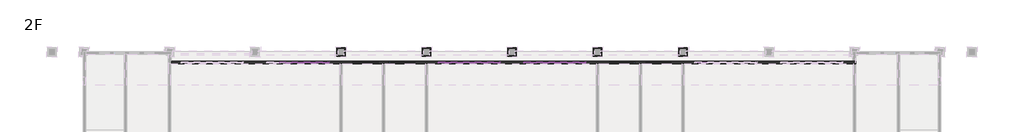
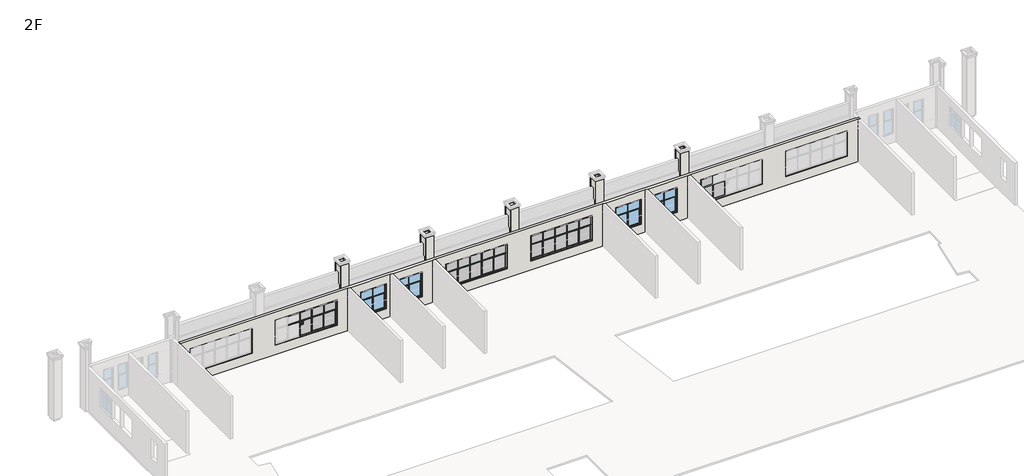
# One storey, part 6 of 16: 71 members, 23 plates, 21 walls, 4 windows.
"""IFC4 building model written with IfcOpenShell, lengths in millimetres."""

from ifc_helpers import new_model, si_unit, origin, place, context, project, spatial, faceted_brep, transform, mapped, element, save
from components import member_7564be38, member_1f4d75dd, member_0b7842ad, member_163d5e45, member_ffafc35e, member_2b011958, member_9c26cac3, member_6c42befd, member_a374fdad, plate_75e73fbb, plate_f4dba16c, plate_1cc4df2b, plate_4fa5932a, plate_00f9c624, plate_7c94d5a9, lc4_lc4_4954e093

model = new_model("IFC4")

# Units and contexts
model_context = context("Model", 3, world=origin())
ifc_project = project(units=[si_unit("LENGTHUNIT", "METRE", prefix="MILLI")], contexts=[model_context])

# Site, building, storey
site = spatial("IfcSite", under=ifc_project)
building = spatial("IfcBuilding", under=site)
storey = spatial("IfcBuildingStorey", under=building, Name="2F", Elevation=4200.0)

# Members
placement = place(None, origin())
member_shape = member_7564be38(model_context)
element("IfcMember", 1, ObjectType="矩形竖梃 : 教学楼 – 矩形竖梃 – 100x150mm", at=placement, inside=storey, context=model_context, shape_type="MappedRepresentation", body=[
    mapped(member_shape, transform((25899.9999995, 32210.0, 7600.0), x_axis=(0.0, 0.0, 1.0), y_axis=(0.0, -1.0, 0.0), z_axis=(1.0, 0.0, 0.0))),
])
element("IfcMember", 2, ObjectType="矩形竖梃 : 教学楼 – 矩形竖梃 – 100x150mm", at=placement, inside=storey, context=model_context, shape_type="MappedRepresentation", body=[
    mapped(member_shape, transform((41900.0000002, 32210.0, 7600.0), x_axis=(0.0, 0.0, 1.0), y_axis=(0.0, -1.0, 0.0), z_axis=(1.0, 0.0, 0.0))),
])
element("IfcMember", 3, ObjectType="矩形竖梃 : 教学楼 – 矩形竖梃 – 100x150mm", at=placement, inside=storey, context=model_context, shape_type="MappedRepresentation", body=[
    mapped(member_shape, transform((49899.9999995, 32210.0, 7600.0), x_axis=(0.0, 0.0, 1.0), y_axis=(0.0, -1.0, 0.0), z_axis=(1.0, 0.0, 0.0))),
])
element("IfcMember", 4, ObjectType="矩形竖梃 : 教学楼 – 矩形竖梃 – 100x150mm", at=placement, inside=storey, context=model_context, shape_type="MappedRepresentation", body=[
    mapped(member_shape, transform((36100.0000002, 32210.0, 5100.0), x_axis=(0.0, 0.0, -1.0), y_axis=(0.0, -1.0, 0.0), z_axis=(-1.0, 0.0, 0.0))),
])
element("IfcMember", 5, ObjectType="矩形竖梃 : 教学楼 – 矩形竖梃 – 100x150mm", at=placement, inside=storey, context=model_context, shape_type="MappedRepresentation", body=[
    mapped(member_shape, transform((44099.9999995, 32210.0, 5100.0), x_axis=(0.0, 0.0, -1.0), y_axis=(0.0, -1.0, 0.0), z_axis=(-1.0, 0.0, 0.0))),
])
element("IfcMember", 6, ObjectType="矩形竖梃 : 教学楼 – 矩形竖梃 – 100x150mm", at=placement, inside=storey, context=model_context, shape_type="MappedRepresentation", body=[
    mapped(member_shape, transform((60100.0000002, 32210.0, 5100.0), x_axis=(0.0, 0.0, -1.0), y_axis=(0.0, -1.0, 0.0), z_axis=(-1.0, 0.0, 0.0))),
])
member_2_shape = member_1f4d75dd(model_context)
element("IfcMember", 7, ObjectType="矩形竖梃 : 教学楼 – 矩形竖梃 – 50x150mm", at=placement, inside=storey, context=model_context, shape_type="MappedRepresentation", body=[
    mapped(member_2_shape, transform((22449.9999995, 32210.0, 5200.0), x_axis=(1.0, 0.0, 0.0), y_axis=(0.0, -1.0, 0.0), z_axis=(0.0, 0.0, -1.0))),
])
element("IfcMember", 8, ObjectType="矩形竖梃 : 教学楼 – 矩形竖梃 – 50x150mm", at=placement, inside=storey, context=model_context, shape_type="MappedRepresentation", body=[
    mapped(member_2_shape, transform((23549.9999995, 32210.0, 5200.0), x_axis=(1.0, 0.0, 0.0), y_axis=(0.0, -1.0, 0.0), z_axis=(0.0, 0.0, -1.0))),
])
element("IfcMember", 9, ObjectType="矩形竖梃 : 教学楼 – 矩形竖梃 – 50x150mm", at=placement, inside=storey, context=model_context, shape_type="MappedRepresentation", body=[
    mapped(member_2_shape, transform((38450.0000002, 32210.0, 5200.0), x_axis=(1.0, 0.0, 0.0), y_axis=(0.0, -1.0, 0.0), z_axis=(0.0, 0.0, -1.0))),
])
element("IfcMember", 10, ObjectType="矩形竖梃 : 教学楼 – 矩形竖梃 – 50x150mm", at=placement, inside=storey, context=model_context, shape_type="MappedRepresentation", body=[
    mapped(member_2_shape, transform((39550.0000002, 32210.0, 5200.0), x_axis=(1.0, 0.0, 0.0), y_axis=(0.0, -1.0, 0.0), z_axis=(0.0, 0.0, -1.0))),
])
element("IfcMember", 11, ObjectType="矩形竖梃 : 教学楼 – 矩形竖梃 – 50x150mm", at=placement, inside=storey, context=model_context, shape_type="MappedRepresentation", body=[
    mapped(member_2_shape, transform((46449.9999995, 32210.0, 5200.0), x_axis=(1.0, 0.0, 0.0), y_axis=(0.0, -1.0, 0.0), z_axis=(0.0, 0.0, -1.0))),
])
element("IfcMember", 12, ObjectType="矩形竖梃 : 教学楼 – 矩形竖梃 – 50x150mm", at=placement, inside=storey, context=model_context, shape_type="MappedRepresentation", body=[
    mapped(member_2_shape, transform((47549.9999995, 32210.0, 5200.0), x_axis=(1.0, 0.0, 0.0), y_axis=(0.0, -1.0, 0.0), z_axis=(0.0, 0.0, -1.0))),
])
member_3_shape = member_0b7842ad(model_context)
element("IfcMember", 13, ObjectType="矩形竖梃 : 教学楼 – 矩形竖梃 – 50x150mm", at=placement, inside=storey, context=model_context, shape_type="MappedRepresentation", body=[
    mapped(member_3_shape, transform((37300.0000002, 32210.0, 6650.0), x_axis=(0.0, 0.0, 1.0), y_axis=(0.0, -1.0, 0.0), z_axis=(1.0, 0.0, 0.0))),
])
element("IfcMember", 14, ObjectType="矩形竖梃 : 教学楼 – 矩形竖梃 – 50x150mm", at=placement, inside=storey, context=model_context, shape_type="MappedRepresentation", body=[
    mapped(member_3_shape, transform((45299.9999995, 32210.0, 6650.0), x_axis=(0.0, 0.0, 1.0), y_axis=(0.0, -1.0, 0.0), z_axis=(1.0, 0.0, 0.0))),
])
member_4_shape = member_163d5e45(model_context)
element("IfcMember", 15, ObjectType="矩形竖梃 : 教学楼 – 矩形竖梃 – 50x150mm", at=placement, inside=storey, context=model_context, shape_type="MappedRepresentation", body=[
    mapped(member_4_shape, transform((22449.9999995, 32210.0, 6650.0), x_axis=(0.0, 0.0, 1.0), y_axis=(0.0, -1.0, 0.0), z_axis=(1.0, 0.0, 0.0))),
])
element("IfcMember", 16, ObjectType="矩形竖梃 : 教学楼 – 矩形竖梃 – 50x150mm", at=placement, inside=storey, context=model_context, shape_type="MappedRepresentation", body=[
    mapped(member_4_shape, transform((24699.9999995, 32210.0, 6650.0), x_axis=(0.0, 0.0, 1.0), y_axis=(0.0, -1.0, 0.0), z_axis=(1.0, 0.0, 0.0))),
])
element("IfcMember", 17, ObjectType="矩形竖梃 : 教学楼 – 矩形竖梃 – 50x150mm", at=placement, inside=storey, context=model_context, shape_type="MappedRepresentation", body=[
    mapped(member_4_shape, transform((38450.0000002, 32210.0, 6650.0), x_axis=(0.0, 0.0, 1.0), y_axis=(0.0, -1.0, 0.0), z_axis=(1.0, 0.0, 0.0))),
])
element("IfcMember", 18, ObjectType="矩形竖梃 : 教学楼 – 矩形竖梃 – 50x150mm", at=placement, inside=storey, context=model_context, shape_type="MappedRepresentation", body=[
    mapped(member_4_shape, transform((40700.0000002, 32210.0, 6650.0), x_axis=(0.0, 0.0, 1.0), y_axis=(0.0, -1.0, 0.0), z_axis=(1.0, 0.0, 0.0))),
])
element("IfcMember", 19, ObjectType="矩形竖梃 : 教学楼 – 矩形竖梃 – 50x150mm", at=placement, inside=storey, context=model_context, shape_type="MappedRepresentation", body=[
    mapped(member_4_shape, transform((46449.9999995, 32210.0, 6650.0), x_axis=(0.0, 0.0, 1.0), y_axis=(0.0, -1.0, 0.0), z_axis=(1.0, 0.0, 0.0))),
])
element("IfcMember", 20, ObjectType="矩形竖梃 : 教学楼 – 矩形竖梃 – 50x150mm", at=placement, inside=storey, context=model_context, shape_type="MappedRepresentation", body=[
    mapped(member_4_shape, transform((48699.9999995, 32210.0, 6650.0), x_axis=(0.0, 0.0, 1.0), y_axis=(0.0, -1.0, 0.0), z_axis=(1.0, 0.0, 0.0))),
])
element("IfcMember", 21, ObjectType="矩形竖梃 : 教学楼 – 矩形竖梃 – 50x150mm", at=placement, inside=storey, context=model_context, shape_type="MappedRepresentation", body=[
    mapped(member_3_shape, transform((23549.9999995, 32210.0, 6650.0), x_axis=(0.0, 0.0, 1.0), y_axis=(0.0, -1.0, 0.0), z_axis=(1.0, 0.0, 0.0))),
])
element("IfcMember", 22, ObjectType="矩形竖梃 : 教学楼 – 矩形竖梃 – 50x150mm", at=placement, inside=storey, context=model_context, shape_type="MappedRepresentation", body=[
    mapped(member_3_shape, transform((39550.0000002, 32210.0, 6650.0), x_axis=(0.0, 0.0, 1.0), y_axis=(0.0, -1.0, 0.0), z_axis=(1.0, 0.0, 0.0))),
])
element("IfcMember", 23, ObjectType="矩形竖梃 : 教学楼 – 矩形竖梃 – 50x150mm", at=placement, inside=storey, context=model_context, shape_type="MappedRepresentation", body=[
    mapped(member_3_shape, transform((47549.9999995, 32210.0, 6650.0), x_axis=(0.0, 0.0, 1.0), y_axis=(0.0, -1.0, 0.0), z_axis=(1.0, 0.0, 0.0))),
])
element("IfcMember", 24, ObjectType="矩形竖梃 : 教学楼 – 矩形竖梃 – 50x150mm", at=placement, inside=storey, context=model_context, shape_type="MappedRepresentation", body=[
    mapped(member_3_shape, transform((25799.9999995, 32210.0, 6650.0), x_axis=(0.0, 0.0, 1.0), y_axis=(0.0, -1.0, 0.0), z_axis=(1.0, 0.0, 0.0))),
])
element("IfcMember", 25, ObjectType="矩形竖梃 : 教学楼 – 矩形竖梃 – 50x150mm", at=placement, inside=storey, context=model_context, shape_type="MappedRepresentation", body=[
    mapped(member_3_shape, transform((41800.0000002, 32210.0, 6650.0), x_axis=(0.0, 0.0, 1.0), y_axis=(0.0, -1.0, 0.0), z_axis=(1.0, 0.0, 0.0))),
])
element("IfcMember", 26, ObjectType="矩形竖梃 : 教学楼 – 矩形竖梃 – 50x150mm", at=placement, inside=storey, context=model_context, shape_type="MappedRepresentation", body=[
    mapped(member_3_shape, transform((49799.9999995, 32210.0, 6650.0), x_axis=(0.0, 0.0, 1.0), y_axis=(0.0, -1.0, 0.0), z_axis=(1.0, 0.0, 0.0))),
])
member_5_shape = member_ffafc35e(model_context)
element("IfcMember", 27, ObjectType="矩形竖梃 : 教学楼 – 矩形竖梃 – 100x150mm", at=placement, inside=storey, context=model_context, shape_type="MappedRepresentation", body=[
    mapped(member_5_shape, transform((37300.0000002, 32210.0, 5100.0), x_axis=(0.0, 0.0, -1.0), y_axis=(0.0, -1.0, 0.0), z_axis=(-1.0, 0.0, 0.0))),
])
element("IfcMember", 28, ObjectType="矩形竖梃 : 教学楼 – 矩形竖梃 – 100x150mm", at=placement, inside=storey, context=model_context, shape_type="MappedRepresentation", body=[
    mapped(member_5_shape, transform((45299.9999995, 32210.0, 5100.0), x_axis=(0.0, 0.0, -1.0), y_axis=(0.0, -1.0, 0.0), z_axis=(-1.0, 0.0, 0.0))),
])
member_6_shape = member_2b011958(model_context)
element("IfcMember", 29, ObjectType="矩形竖梃 : 教学楼 – 矩形竖梃 – 100x150mm", at=placement, inside=storey, context=model_context, shape_type="MappedRepresentation", body=[
    mapped(member_6_shape, transform((22449.9999995, 32210.0, 5100.0), x_axis=(0.0, 0.0, -1.0), y_axis=(0.0, -1.0, 0.0), z_axis=(-1.0, 0.0, 0.0))),
])
element("IfcMember", 30, ObjectType="矩形竖梃 : 教学楼 – 矩形竖梃 – 100x150mm", at=placement, inside=storey, context=model_context, shape_type="MappedRepresentation", body=[
    mapped(member_6_shape, transform((38450.0000002, 32210.0, 5100.0), x_axis=(0.0, 0.0, -1.0), y_axis=(0.0, -1.0, 0.0), z_axis=(-1.0, 0.0, 0.0))),
])
element("IfcMember", 31, ObjectType="矩形竖梃 : 教学楼 – 矩形竖梃 – 100x150mm", at=placement, inside=storey, context=model_context, shape_type="MappedRepresentation", body=[
    mapped(member_6_shape, transform((46449.9999995, 32210.0, 5100.0), x_axis=(0.0, 0.0, -1.0), y_axis=(0.0, -1.0, 0.0), z_axis=(-1.0, 0.0, 0.0))),
])
element("IfcMember", 32, ObjectType="矩形竖梃 : 教学楼 – 矩形竖梃 – 100x150mm", at=placement, inside=storey, context=model_context, shape_type="MappedRepresentation", body=[
    mapped(member_5_shape, transform((23549.9999995, 32210.0, 5100.0), x_axis=(0.0, 0.0, -1.0), y_axis=(0.0, -1.0, 0.0), z_axis=(-1.0, 0.0, 0.0))),
])
element("IfcMember", 33, ObjectType="矩形竖梃 : 教学楼 – 矩形竖梃 – 100x150mm", at=placement, inside=storey, context=model_context, shape_type="MappedRepresentation", body=[
    mapped(member_5_shape, transform((39550.0000002, 32210.0, 5100.0), x_axis=(0.0, 0.0, -1.0), y_axis=(0.0, -1.0, 0.0), z_axis=(-1.0, 0.0, 0.0))),
])
element("IfcMember", 34, ObjectType="矩形竖梃 : 教学楼 – 矩形竖梃 – 100x150mm", at=placement, inside=storey, context=model_context, shape_type="MappedRepresentation", body=[
    mapped(member_5_shape, transform((47549.9999995, 32210.0, 5100.0), x_axis=(0.0, 0.0, -1.0), y_axis=(0.0, -1.0, 0.0), z_axis=(-1.0, 0.0, 0.0))),
])
element("IfcMember", 35, ObjectType="矩形竖梃 : 教学楼 – 矩形竖梃 – 100x150mm", at=placement, inside=storey, context=model_context, shape_type="MappedRepresentation", body=[
    mapped(member_shape, transform((24699.9999995, 32210.0, 5100.0), x_axis=(0.0, 0.0, -1.0), y_axis=(0.0, -1.0, 0.0), z_axis=(-1.0, 0.0, 0.0))),
])
element("IfcMember", 36, ObjectType="矩形竖梃 : 教学楼 – 矩形竖梃 – 100x150mm", at=placement, inside=storey, context=model_context, shape_type="MappedRepresentation", body=[
    mapped(member_shape, transform((40700.0000002, 32210.0, 5100.0), x_axis=(0.0, 0.0, -1.0), y_axis=(0.0, -1.0, 0.0), z_axis=(-1.0, 0.0, 0.0))),
])
element("IfcMember", 37, ObjectType="矩形竖梃 : 教学楼 – 矩形竖梃 – 100x150mm", at=placement, inside=storey, context=model_context, shape_type="MappedRepresentation", body=[
    mapped(member_shape, transform((48699.9999995, 32210.0, 5100.0), x_axis=(0.0, 0.0, -1.0), y_axis=(0.0, -1.0, 0.0), z_axis=(-1.0, 0.0, 0.0))),
])
element("IfcMember", 38, ObjectType="矩形竖梃 : 教学楼 – 矩形竖梃 – 100x150mm", at=placement, inside=storey, context=model_context, shape_type="MappedRepresentation", body=[
    mapped(member_shape, transform((37300.0000002, 32210.0, 7600.0), x_axis=(0.0, 0.0, 1.0), y_axis=(0.0, -1.0, 0.0), z_axis=(1.0, 0.0, 0.0))),
])
element("IfcMember", 39, ObjectType="矩形竖梃 : 教学楼 – 矩形竖梃 – 100x150mm", at=placement, inside=storey, context=model_context, shape_type="MappedRepresentation", body=[
    mapped(member_shape, transform((45299.9999995, 32210.0, 7600.0), x_axis=(0.0, 0.0, 1.0), y_axis=(0.0, -1.0, 0.0), z_axis=(1.0, 0.0, 0.0))),
])
element("IfcMember", 40, ObjectType="矩形竖梃 : 教学楼 – 矩形竖梃 – 100x150mm", at=placement, inside=storey, context=model_context, shape_type="MappedRepresentation", body=[
    mapped(member_5_shape, transform((22449.9999995, 32210.0, 7600.0), x_axis=(0.0, 0.0, 1.0), y_axis=(0.0, -1.0, 0.0), z_axis=(1.0, 0.0, 0.0))),
])
element("IfcMember", 41, ObjectType="矩形竖梃 : 教学楼 – 矩形竖梃 – 100x150mm", at=placement, inside=storey, context=model_context, shape_type="MappedRepresentation", body=[
    mapped(member_5_shape, transform((24699.9999995, 32210.0, 7600.0), x_axis=(0.0, 0.0, 1.0), y_axis=(0.0, -1.0, 0.0), z_axis=(1.0, 0.0, 0.0))),
])
element("IfcMember", 42, ObjectType="矩形竖梃 : 教学楼 – 矩形竖梃 – 100x150mm", at=placement, inside=storey, context=model_context, shape_type="MappedRepresentation", body=[
    mapped(member_5_shape, transform((38450.0000002, 32210.0, 7600.0), x_axis=(0.0, 0.0, 1.0), y_axis=(0.0, -1.0, 0.0), z_axis=(1.0, 0.0, 0.0))),
])
element("IfcMember", 43, ObjectType="矩形竖梃 : 教学楼 – 矩形竖梃 – 100x150mm", at=placement, inside=storey, context=model_context, shape_type="MappedRepresentation", body=[
    mapped(member_5_shape, transform((40700.0000002, 32210.0, 7600.0), x_axis=(0.0, 0.0, 1.0), y_axis=(0.0, -1.0, 0.0), z_axis=(1.0, 0.0, 0.0))),
])
element("IfcMember", 44, ObjectType="矩形竖梃 : 教学楼 – 矩形竖梃 – 100x150mm", at=placement, inside=storey, context=model_context, shape_type="MappedRepresentation", body=[
    mapped(member_5_shape, transform((46449.9999995, 32210.0, 7600.0), x_axis=(0.0, 0.0, 1.0), y_axis=(0.0, -1.0, 0.0), z_axis=(1.0, 0.0, 0.0))),
])
element("IfcMember", 45, ObjectType="矩形竖梃 : 教学楼 – 矩形竖梃 – 100x150mm", at=placement, inside=storey, context=model_context, shape_type="MappedRepresentation", body=[
    mapped(member_5_shape, transform((48699.9999995, 32210.0, 7600.0), x_axis=(0.0, 0.0, 1.0), y_axis=(0.0, -1.0, 0.0), z_axis=(1.0, 0.0, 0.0))),
])
element("IfcMember", 46, ObjectType="矩形竖梃 : 教学楼 – 矩形竖梃 – 100x150mm", at=placement, inside=storey, context=model_context, shape_type="MappedRepresentation", body=[
    mapped(member_6_shape, transform((23549.9999995, 32210.0, 7600.0), x_axis=(0.0, 0.0, 1.0), y_axis=(0.0, -1.0, 0.0), z_axis=(1.0, 0.0, 0.0))),
])
element("IfcMember", 47, ObjectType="矩形竖梃 : 教学楼 – 矩形竖梃 – 100x150mm", at=placement, inside=storey, context=model_context, shape_type="MappedRepresentation", body=[
    mapped(member_6_shape, transform((39550.0000002, 32210.0, 7600.0), x_axis=(0.0, 0.0, 1.0), y_axis=(0.0, -1.0, 0.0), z_axis=(1.0, 0.0, 0.0))),
])
element("IfcMember", 48, ObjectType="矩形竖梃 : 教学楼 – 矩形竖梃 – 100x150mm", at=placement, inside=storey, context=model_context, shape_type="MappedRepresentation", body=[
    mapped(member_6_shape, transform((47549.9999995, 32210.0, 7600.0), x_axis=(0.0, 0.0, 1.0), y_axis=(0.0, -1.0, 0.0), z_axis=(1.0, 0.0, 0.0))),
])
member_7_shape = member_9c26cac3(model_context)
element("IfcMember", 49, ObjectType="矩形竖梃 : 教学楼 – 矩形竖梃 – 50x150mm", at=placement, inside=storey, context=model_context, shape_type="MappedRepresentation", body=[
    mapped(member_7_shape, transform((22449.9999995, 32210.0, 6675.0), x_axis=(1.0, 0.0, 0.0), y_axis=(0.0, -1.0, 0.0), z_axis=(0.0, 0.0, -1.0))),
])
element("IfcMember", 50, ObjectType="矩形竖梃 : 教学楼 – 矩形竖梃 – 50x150mm", at=placement, inside=storey, context=model_context, shape_type="MappedRepresentation", body=[
    mapped(member_7_shape, transform((23549.9999995, 32210.0, 6675.0), x_axis=(1.0, 0.0, 0.0), y_axis=(0.0, -1.0, 0.0), z_axis=(0.0, 0.0, -1.0))),
])
element("IfcMember", 51, ObjectType="矩形竖梃 : 教学楼 – 矩形竖梃 – 50x150mm", at=placement, inside=storey, context=model_context, shape_type="MappedRepresentation", body=[
    mapped(member_7_shape, transform((24699.9999995, 32210.0, 6675.0), x_axis=(1.0, 0.0, 0.0), y_axis=(0.0, -1.0, 0.0), z_axis=(0.0, 0.0, -1.0))),
])
element("IfcMember", 52, ObjectType="矩形竖梃 : 教学楼 – 矩形竖梃 – 50x150mm", at=placement, inside=storey, context=model_context, shape_type="MappedRepresentation", body=[
    mapped(member_7_shape, transform((37300.0000002, 32210.0, 6675.0), x_axis=(1.0, 0.0, 0.0), y_axis=(0.0, -1.0, 0.0), z_axis=(0.0, 0.0, -1.0))),
])
element("IfcMember", 53, ObjectType="矩形竖梃 : 教学楼 – 矩形竖梃 – 50x150mm", at=placement, inside=storey, context=model_context, shape_type="MappedRepresentation", body=[
    mapped(member_7_shape, transform((38450.0000002, 32210.0, 6675.0), x_axis=(1.0, 0.0, 0.0), y_axis=(0.0, -1.0, 0.0), z_axis=(0.0, 0.0, -1.0))),
])
element("IfcMember", 54, ObjectType="矩形竖梃 : 教学楼 – 矩形竖梃 – 50x150mm", at=placement, inside=storey, context=model_context, shape_type="MappedRepresentation", body=[
    mapped(member_7_shape, transform((39550.0000002, 32210.0, 6675.0), x_axis=(1.0, 0.0, 0.0), y_axis=(0.0, -1.0, 0.0), z_axis=(0.0, 0.0, -1.0))),
])
element("IfcMember", 55, ObjectType="矩形竖梃 : 教学楼 – 矩形竖梃 – 50x150mm", at=placement, inside=storey, context=model_context, shape_type="MappedRepresentation", body=[
    mapped(member_7_shape, transform((40700.0000002, 32210.0, 6675.0), x_axis=(1.0, 0.0, 0.0), y_axis=(0.0, -1.0, 0.0), z_axis=(0.0, 0.0, -1.0))),
])
element("IfcMember", 56, ObjectType="矩形竖梃 : 教学楼 – 矩形竖梃 – 50x150mm", at=placement, inside=storey, context=model_context, shape_type="MappedRepresentation", body=[
    mapped(member_7_shape, transform((45299.9999995, 32210.0, 6675.0), x_axis=(1.0, 0.0, 0.0), y_axis=(0.0, -1.0, 0.0), z_axis=(0.0, 0.0, -1.0))),
])
element("IfcMember", 57, ObjectType="矩形竖梃 : 教学楼 – 矩形竖梃 – 50x150mm", at=placement, inside=storey, context=model_context, shape_type="MappedRepresentation", body=[
    mapped(member_7_shape, transform((46449.9999995, 32210.0, 6675.0), x_axis=(1.0, 0.0, 0.0), y_axis=(0.0, -1.0, 0.0), z_axis=(0.0, 0.0, -1.0))),
])
element("IfcMember", 58, ObjectType="矩形竖梃 : 教学楼 – 矩形竖梃 – 50x150mm", at=placement, inside=storey, context=model_context, shape_type="MappedRepresentation", body=[
    mapped(member_7_shape, transform((47549.9999995, 32210.0, 6675.0), x_axis=(1.0, 0.0, 0.0), y_axis=(0.0, -1.0, 0.0), z_axis=(0.0, 0.0, -1.0))),
])
element("IfcMember", 59, ObjectType="矩形竖梃 : 教学楼 – 矩形竖梃 – 50x150mm", at=placement, inside=storey, context=model_context, shape_type="MappedRepresentation", body=[
    mapped(member_7_shape, transform((48699.9999995, 32210.0, 6675.0), x_axis=(1.0, 0.0, 0.0), y_axis=(0.0, -1.0, 0.0), z_axis=(0.0, 0.0, -1.0))),
])
member_8_shape = member_6c42befd(model_context)
element("IfcMember", 60, ObjectType="矩形竖梃 : 教学楼 – 矩形竖梃 – 100x150mm", at=placement, inside=storey, context=model_context, shape_type="MappedRepresentation", body=[
    mapped(member_8_shape, transform((36100.0000002, 32210.0, 7500.0), x_axis=(-1.0, 0.0, 0.0), y_axis=(0.0, -1.0, 0.0), z_axis=(0.0, 0.0, 1.0))),
])
element("IfcMember", 61, ObjectType="矩形竖梃 : 教学楼 – 矩形竖梃 – 100x150mm", at=placement, inside=storey, context=model_context, shape_type="MappedRepresentation", body=[
    mapped(member_8_shape, transform((44099.9999995, 32210.0, 7500.0), x_axis=(-1.0, 0.0, 0.0), y_axis=(0.0, -1.0, 0.0), z_axis=(0.0, 0.0, 1.0))),
])
element("IfcMember", 62, ObjectType="矩形竖梃 : 教学楼 – 矩形竖梃 – 100x150mm", at=placement, inside=storey, context=model_context, shape_type="MappedRepresentation", body=[
    mapped(member_8_shape, transform((60100.0000002, 32210.0, 7500.0), x_axis=(-1.0, 0.0, 0.0), y_axis=(0.0, -1.0, 0.0), z_axis=(0.0, 0.0, 1.0))),
])
member_9_shape = member_a374fdad(model_context)
element("IfcMember", 63, ObjectType="矩形竖梃 : 教学楼 – 矩形竖梃 – 100x150mm", at=placement, inside=storey, context=model_context, shape_type="MappedRepresentation", body=[
    mapped(member_9_shape, transform((25899.9999995, 32210.0, 5200.0), x_axis=(1.0, 0.0, 0.0), y_axis=(0.0, -1.0, 0.0), z_axis=(0.0, 0.0, -1.0))),
])
element("IfcMember", 64, ObjectType="矩形竖梃 : 教学楼 – 矩形竖梃 – 100x150mm", at=placement, inside=storey, context=model_context, shape_type="MappedRepresentation", body=[
    mapped(member_9_shape, transform((41900.0000002, 32210.0, 5200.0), x_axis=(1.0, 0.0, 0.0), y_axis=(0.0, -1.0, 0.0), z_axis=(0.0, 0.0, -1.0))),
])
element("IfcMember", 65, ObjectType="矩形竖梃 : 教学楼 – 矩形竖梃 – 100x150mm", at=placement, inside=storey, context=model_context, shape_type="MappedRepresentation", body=[
    mapped(member_9_shape, transform((49899.9999995, 32210.0, 5200.0), x_axis=(1.0, 0.0, 0.0), y_axis=(0.0, -1.0, 0.0), z_axis=(0.0, 0.0, -1.0))),
])
element("IfcMember", 66, ObjectType="矩形竖梃 : 教学楼 – 矩形竖梃 – 100x150mm", at=placement, inside=storey, context=model_context, shape_type="MappedRepresentation", body=[
    mapped(member_8_shape, transform((25899.9999995, 32210.0, 6650.0), x_axis=(1.0, 0.0, 0.0), y_axis=(0.0, -1.0, 0.0), z_axis=(0.0, 0.0, -1.0))),
])
element("IfcMember", 67, ObjectType="矩形竖梃 : 教学楼 – 矩形竖梃 – 100x150mm", at=placement, inside=storey, context=model_context, shape_type="MappedRepresentation", body=[
    mapped(member_8_shape, transform((41900.0000002, 32210.0, 6650.0), x_axis=(1.0, 0.0, 0.0), y_axis=(0.0, -1.0, 0.0), z_axis=(0.0, 0.0, -1.0))),
])
element("IfcMember", 68, ObjectType="矩形竖梃 : 教学楼 – 矩形竖梃 – 100x150mm", at=placement, inside=storey, context=model_context, shape_type="MappedRepresentation", body=[
    mapped(member_8_shape, transform((49899.9999995, 32210.0, 6650.0), x_axis=(1.0, 0.0, 0.0), y_axis=(0.0, -1.0, 0.0), z_axis=(0.0, 0.0, -1.0))),
])
element("IfcMember", 69, ObjectType="矩形竖梃 : 教学楼 – 矩形竖梃 – 100x150mm", at=placement, inside=storey, context=model_context, shape_type="MappedRepresentation", body=[
    mapped(member_9_shape, transform((36100.0000002, 32210.0, 6650.0), x_axis=(-1.0, 0.0, 0.0), y_axis=(0.0, -1.0, 0.0), z_axis=(0.0, 0.0, 1.0))),
])
element("IfcMember", 70, ObjectType="矩形竖梃 : 教学楼 – 矩形竖梃 – 100x150mm", at=placement, inside=storey, context=model_context, shape_type="MappedRepresentation", body=[
    mapped(member_9_shape, transform((44099.9999995, 32210.0, 6650.0), x_axis=(-1.0, 0.0, 0.0), y_axis=(0.0, -1.0, 0.0), z_axis=(0.0, 0.0, 1.0))),
])
element("IfcMember", 71, ObjectType="矩形竖梃 : 教学楼 – 矩形竖梃 – 100x150mm", at=placement, inside=storey, context=model_context, shape_type="MappedRepresentation", body=[
    mapped(member_9_shape, transform((60100.0000002, 32210.0, 6650.0), x_axis=(-1.0, 0.0, 0.0), y_axis=(0.0, -1.0, 0.0), z_axis=(0.0, 0.0, 1.0))),
])

# Plates
plate_shape = plate_75e73fbb(model_context)
element("IfcPlate", 72, ObjectType="教学楼 - 窗嵌板：双扇推拉窗 : 教学楼 - 窗嵌板：双扇推拉窗", at=placement, inside=storey, context=model_context, shape_type="MappedRepresentation", body=[
    mapped(plate_shape, transform((37312.5000002, 32210.0, 5200.0), x_axis=(1.0, 0.0, 0.0), y_axis=(0.0, 1.0, 0.0), z_axis=(0.0, 0.0, 1.0))),
])
element("IfcPlate", 73, ObjectType="教学楼 - 窗嵌板：双扇推拉窗 : 教学楼 - 窗嵌板：双扇推拉窗", at=placement, inside=storey, context=model_context, shape_type="MappedRepresentation", body=[
    mapped(plate_shape, transform((45312.4999995, 32210.0, 5200.0), x_axis=(1.0, 0.0, 0.0), y_axis=(0.0, 1.0, 0.0), z_axis=(0.0, 0.0, 1.0))),
])
element("IfcPlate", 74, ObjectType="教学楼 - 窗嵌板：双扇推拉窗 : 教学楼 - 窗嵌板：双扇推拉窗", at=placement, inside=storey, context=model_context, shape_type="MappedRepresentation", body=[
    mapped(plate_shape, transform((61312.5000002, 32210.0, 5200.0), x_axis=(1.0, 0.0, 0.0), y_axis=(0.0, 1.0, 0.0), z_axis=(0.0, 0.0, 1.0))),
])
plate_2_shape = plate_f4dba16c(model_context)
element("IfcPlate", 75, ObjectType="系统嵌板 : 玻璃", at=placement, inside=storey, context=model_context, shape_type="MappedRepresentation", body=[
    mapped(plate_2_shape, transform((39000.0000002, 32210.0, 5200.0), x_axis=(1.0, 0.0, 0.0), y_axis=(0.0, 1.0, 0.0), z_axis=(0.0, 0.0, 1.0))),
])
element("IfcPlate", 76, ObjectType="系统嵌板 : 玻璃", at=placement, inside=storey, context=model_context, shape_type="MappedRepresentation", body=[
    mapped(plate_2_shape, transform((46999.9999995, 32210.0, 5200.0), x_axis=(1.0, 0.0, 0.0), y_axis=(0.0, 1.0, 0.0), z_axis=(0.0, 0.0, 1.0))),
])
element("IfcPlate", 77, ObjectType="教学楼 - 窗嵌板：双扇推拉窗 : 教学楼 - 窗嵌板：双扇推拉窗", at=placement, inside=storey, context=model_context, shape_type="MappedRepresentation", body=[
    mapped(plate_shape, transform((24687.4999995, 32210.0, 5200.0), x_axis=(1.0, 0.0, 0.0), y_axis=(0.0, 1.0, 0.0), z_axis=(0.0, 0.0, 1.0))),
])
element("IfcPlate", 78, ObjectType="教学楼 - 窗嵌板：双扇推拉窗 : 教学楼 - 窗嵌板：双扇推拉窗", at=placement, inside=storey, context=model_context, shape_type="MappedRepresentation", body=[
    mapped(plate_shape, transform((40687.5000002, 32210.0, 5200.0), x_axis=(1.0, 0.0, 0.0), y_axis=(0.0, 1.0, 0.0), z_axis=(0.0, 0.0, 1.0))),
])
element("IfcPlate", 79, ObjectType="教学楼 - 窗嵌板：双扇推拉窗 : 教学楼 - 窗嵌板：双扇推拉窗", at=placement, inside=storey, context=model_context, shape_type="MappedRepresentation", body=[
    mapped(plate_shape, transform((48687.4999995, 32210.0, 5200.0), x_axis=(1.0, 0.0, 0.0), y_axis=(0.0, 1.0, 0.0), z_axis=(0.0, 0.0, 1.0))),
])
plate_3_shape = plate_1cc4df2b(model_context)
element("IfcPlate", 80, ObjectType="系统嵌板 : 玻璃", at=placement, inside=storey, context=model_context, shape_type="MappedRepresentation", body=[
    mapped(plate_3_shape, transform((25262.4999995, 32210.0, 6675.0), x_axis=(1.0, 0.0, 0.0), y_axis=(0.0, 1.0, 0.0), z_axis=(0.0, 0.0, 1.0))),
])
element("IfcPlate", 81, ObjectType="系统嵌板 : 玻璃", at=placement, inside=storey, context=model_context, shape_type="MappedRepresentation", body=[
    mapped(plate_3_shape, transform((36737.5000002, 32210.0, 6675.0), x_axis=(1.0, 0.0, 0.0), y_axis=(0.0, 1.0, 0.0), z_axis=(0.0, 0.0, 1.0))),
])
element("IfcPlate", 82, ObjectType="系统嵌板 : 玻璃", at=placement, inside=storey, context=model_context, shape_type="MappedRepresentation", body=[
    mapped(plate_3_shape, transform((41262.5000002, 32210.0, 6675.0), x_axis=(1.0, 0.0, 0.0), y_axis=(0.0, 1.0, 0.0), z_axis=(0.0, 0.0, 1.0))),
])
element("IfcPlate", 83, ObjectType="系统嵌板 : 玻璃", at=placement, inside=storey, context=model_context, shape_type="MappedRepresentation", body=[
    mapped(plate_3_shape, transform((44737.4999995, 32210.0, 6675.0), x_axis=(1.0, 0.0, 0.0), y_axis=(0.0, 1.0, 0.0), z_axis=(0.0, 0.0, 1.0))),
])
element("IfcPlate", 84, ObjectType="系统嵌板 : 玻璃", at=placement, inside=storey, context=model_context, shape_type="MappedRepresentation", body=[
    mapped(plate_3_shape, transform((49262.4999995, 32210.0, 6675.0), x_axis=(1.0, 0.0, 0.0), y_axis=(0.0, 1.0, 0.0), z_axis=(0.0, 0.0, 1.0))),
])
element("IfcPlate", 85, ObjectType="系统嵌板 : 玻璃", at=placement, inside=storey, context=model_context, shape_type="MappedRepresentation", body=[
    mapped(plate_3_shape, transform((60737.5000002, 32210.0, 6675.0), x_axis=(1.0, 0.0, 0.0), y_axis=(0.0, 1.0, 0.0), z_axis=(0.0, 0.0, 1.0))),
])
plate_4_shape = plate_4fa5932a(model_context)
element("IfcPlate", 86, ObjectType="系统嵌板 : 玻璃", at=placement, inside=storey, context=model_context, shape_type="MappedRepresentation", body=[
    mapped(plate_4_shape, transform((24124.9999995, 32210.0, 6675.0), x_axis=(1.0, 0.0, 0.0), y_axis=(0.0, 1.0, 0.0), z_axis=(0.0, 0.0, 1.0))),
])
element("IfcPlate", 87, ObjectType="系统嵌板 : 玻璃", at=placement, inside=storey, context=model_context, shape_type="MappedRepresentation", body=[
    mapped(plate_4_shape, transform((37875.0000002, 32210.0, 6675.0), x_axis=(1.0, 0.0, 0.0), y_axis=(0.0, 1.0, 0.0), z_axis=(0.0, 0.0, 1.0))),
])
element("IfcPlate", 88, ObjectType="系统嵌板 : 玻璃", at=placement, inside=storey, context=model_context, shape_type="MappedRepresentation", body=[
    mapped(plate_4_shape, transform((40125.0000002, 32210.0, 6675.0), x_axis=(1.0, 0.0, 0.0), y_axis=(0.0, 1.0, 0.0), z_axis=(0.0, 0.0, 1.0))),
])
element("IfcPlate", 89, ObjectType="系统嵌板 : 玻璃", at=placement, inside=storey, context=model_context, shape_type="MappedRepresentation", body=[
    mapped(plate_4_shape, transform((45874.9999995, 32210.0, 6675.0), x_axis=(1.0, 0.0, 0.0), y_axis=(0.0, 1.0, 0.0), z_axis=(0.0, 0.0, 1.0))),
])
element("IfcPlate", 90, ObjectType="系统嵌板 : 玻璃", at=placement, inside=storey, context=model_context, shape_type="MappedRepresentation", body=[
    mapped(plate_4_shape, transform((48124.9999995, 32210.0, 6675.0), x_axis=(1.0, 0.0, 0.0), y_axis=(0.0, 1.0, 0.0), z_axis=(0.0, 0.0, 1.0))),
])
plate_5_shape = plate_00f9c624(model_context)
element("IfcPlate", 91, ObjectType="系统嵌板 : 玻璃", at=placement, inside=storey, context=model_context, shape_type="MappedRepresentation", body=[
    mapped(plate_5_shape, transform((22999.9999995, 32210.0, 6675.0), x_axis=(1.0, 0.0, 0.0), y_axis=(0.0, 1.0, 0.0), z_axis=(0.0, 0.0, 1.0))),
])
element("IfcPlate", 92, ObjectType="系统嵌板 : 玻璃", at=placement, inside=storey, context=model_context, shape_type="MappedRepresentation", body=[
    mapped(plate_5_shape, transform((39000.0000002, 32210.0, 6675.0), x_axis=(1.0, 0.0, 0.0), y_axis=(0.0, 1.0, 0.0), z_axis=(0.0, 0.0, 1.0))),
])
element("IfcPlate", 93, ObjectType="系统嵌板 : 玻璃", at=placement, inside=storey, context=model_context, shape_type="MappedRepresentation", body=[
    mapped(plate_5_shape, transform((46999.9999995, 32210.0, 6675.0), x_axis=(1.0, 0.0, 0.0), y_axis=(0.0, 1.0, 0.0), z_axis=(0.0, 0.0, 1.0))),
])
plate_6_shape = plate_7c94d5a9(model_context)
element("IfcPlate", 94, ObjectType="教学楼 - 窗嵌板：外贴消防通道 : 教学楼 - 窗嵌板：外贴消防通道", at=placement, inside=storey, context=model_context, shape_type="MappedRepresentation", body=[
    mapped(plate_6_shape, transform((22999.9999995, 32210.0, 5200.0), x_axis=(1.0, 0.0, 0.0), y_axis=(0.0, 1.0, 0.0), z_axis=(0.0, 0.0, 1.0))),
])

# Walls
element("IfcWall", 95, ObjectType="教学楼 – 饰面砖外墙 – 200mm", at=placement, inside=storey, context=model_context, shape_type="Brep", body=[
    faceted_brep([(11133.0, 32075.0, 4200.0), (26883.0, 32075.0, 4200.0), (27117.0, 32075.0, 4200.0), (30883.0000029, 32075.0, 4200.0), (31117.0000029, 32075.0, 4200.0), (34883.0, 32075.0, 4200.0), (35117.0, 32075.0, 4200.0), (50883.0, 32075.0, 4200.0), (51117.0, 32075.0, 4200.0), (54883.0000001, 32075.0, 4200.0), (55117.0000001, 32075.0, 4200.0), (58883.0, 32075.0, 4200.0), (59117.0, 32075.0, 4200.0), (74883.0, 32075.0, 4200.0), (75117.0, 32075.0, 4200.0), (75117.0, 32075.0, 8400.0), (74883.0, 32075.0, 8400.0), (59117.0, 32075.0, 8400.0), (58883.0, 32075.0, 8400.0), (55117.0000001, 32075.0, 8400.0), (54883.0000001, 32075.0, 8400.0), (51117.0, 32075.0, 8400.0), (50883.0, 32075.0, 8400.0), (35117.0, 32075.0, 8400.0), (34883.0, 32075.0, 8400.0), (31117.0000029, 32075.0, 8400.0), (30883.0000029, 32075.0, 8400.0), (27117.0, 32075.0, 8400.0), (26883.0, 32075.0, 8400.0), (11133.0, 32075.0, 8400.0), (68099.9999995, 32075.0, 5100.0), (68099.9999995, 32075.0, 7600.0), (73899.9999995, 32075.0, 7600.0), (73899.9999995, 32075.0, 5100.0), (60100.0000002, 32075.0, 5100.0), (60100.0000002, 32075.0, 7600.0), (65900.0000002, 32075.0, 7600.0), (65900.0000002, 32075.0, 5100.0), (44099.9999995, 32075.0, 5100.0), (44099.9999995, 32075.0, 7600.0), (49899.9999995, 32075.0, 7600.0), (49899.9999995, 32075.0, 5100.0), (36100.0000002, 32075.0, 5100.0), (36100.0000002, 32075.0, 7600.0), (41900.0000002, 32075.0, 7600.0), (41900.0000002, 32075.0, 5100.0), (12100.0000002, 32075.0, 5100.0), (12100.0000002, 32075.0, 7600.0), (17900.0000002, 32075.0, 7600.0), (17900.0000002, 32075.0, 5100.0), (20099.9999995, 32075.0, 5100.0), (20099.9999995, 32075.0, 7600.0), (25899.9999995, 32075.0, 7600.0), (25899.9999995, 32075.0, 5100.0), (55500.0, 32075.0, 5100.0), (55500.0, 32075.0, 7600.0), (57900.0, 32075.0, 7600.0), (57900.0, 32075.0, 5100.0), (54500.0000067, 32075.0, 7600.0), (54500.0000067, 32075.0, 5100.0), (52100.0000067, 32075.0, 5100.0), (52100.0000067, 32075.0, 7600.0), (33900.0000018, 32075.0, 7600.0), (33900.0000018, 32075.0, 5100.0), (31500.0000018, 32075.0, 5100.0), (31500.0000018, 32075.0, 7600.0), (28099.9999993, 32075.0, 5100.0), (28099.9999993, 32075.0, 7600.0), (30499.9999993, 32075.0, 7600.0), (30499.9999993, 32075.0, 5100.0), (75117.0, 32325.0, 4200.0), (74867.0, 32325.0, 4200.0), (11133.0, 32325.0, 4200.0), (11133.0, 32325.0, 8400.0), (74867.0, 32325.0, 8400.0), (75117.0, 32325.0, 8400.0), (68099.9999995, 32325.0, 7600.0), (68099.9999995, 32325.0, 5100.0), (73899.9999995, 32325.0, 5100.0), (73899.9999995, 32325.0, 7600.0), (60100.0000002, 32325.0, 7600.0), (60100.0000002, 32325.0, 5100.0), (65900.0000002, 32325.0, 5100.0), (65900.0000002, 32325.0, 7600.0), (44099.9999995, 32325.0, 7600.0), (44099.9999995, 32325.0, 5100.0), (49899.9999995, 32325.0, 5100.0), (49899.9999995, 32325.0, 7600.0), (36100.0000002, 32325.0, 7600.0), (36100.0000002, 32325.0, 5100.0), (41900.0000002, 32325.0, 5100.0), (41900.0000002, 32325.0, 7600.0), (12100.0000002, 32325.0, 7600.0), (12100.0000002, 32325.0, 5100.0), (17900.0000002, 32325.0, 5100.0), (17900.0000002, 32325.0, 7600.0), (20099.9999995, 32325.0, 7600.0), (20099.9999995, 32325.0, 5100.0), (25899.9999995, 32325.0, 5100.0), (25899.9999995, 32325.0, 7600.0), (55500.0, 32325.0, 7600.0), (55500.0, 32325.0, 5100.0), (57900.0, 32325.0, 5100.0), (57900.0, 32325.0, 7600.0), (54500.0000067, 32325.0, 5100.0), (54500.0000067, 32325.0, 7600.0), (52100.0000067, 32325.0, 7600.0), (52100.0000067, 32325.0, 5100.0), (33900.0000018, 32325.0, 5100.0), (33900.0000018, 32325.0, 7600.0), (31500.0000018, 32325.0, 7600.0), (31500.0000018, 32325.0, 5100.0), (28099.9999993, 32325.0, 7600.0), (28099.9999993, 32325.0, 5100.0), (30499.9999993, 32325.0, 5100.0), (30499.9999993, 32325.0, 7600.0)], [[[0, 1, 2, 3, 4, 5, 6, 7, 8, 9, 10, 11, 12, 13, 14, 15, 16, 17, 18, 19, 20, 21, 22, 23, 24, 25, 26, 27, 28, 29], [30, 31, 32, 33], [34, 35, 36, 37], [38, 39, 40, 41], [42, 43, 44, 45], [46, 47, 48, 49], [50, 51, 52, 53], [54, 55, 56, 57], [58, 59, 60, 61], [62, 63, 64, 65], [66, 67, 68, 69]], [[70, 71, 72, 73, 74, 75], [76, 77, 78, 79], [80, 81, 82, 83], [84, 85, 86, 87], [88, 89, 90, 91], [92, 93, 94, 95], [96, 97, 98, 99], [100, 101, 102, 103], [104, 105, 106, 107], [108, 109, 110, 111], [112, 113, 114, 115]], [[14, 13, 12, 11, 10, 9, 8, 7, 6, 5, 4, 3, 2, 1, 0, 72, 71, 70]], [[29, 28, 27, 26, 25, 24, 23, 22, 21, 20, 19, 18, 17, 16, 15, 75, 74, 73]], [[0, 29, 73, 72]], [[15, 14, 70, 75]], [[30, 77, 76, 31]], [[31, 76, 79, 32]], [[32, 79, 78, 33]], [[77, 30, 33, 78]], [[34, 81, 80, 35]], [[35, 80, 83, 36]], [[36, 83, 82, 37]], [[81, 34, 37, 82]], [[38, 85, 84, 39]], [[39, 84, 87, 40]], [[40, 87, 86, 41]], [[85, 38, 41, 86]], [[42, 89, 88, 43]], [[43, 88, 91, 44]], [[44, 91, 90, 45]], [[89, 42, 45, 90]], [[46, 93, 92, 47]], [[47, 92, 95, 48]], [[48, 95, 94, 49]], [[93, 46, 49, 94]], [[50, 97, 96, 51]], [[51, 96, 99, 52]], [[52, 99, 98, 53]], [[97, 50, 53, 98]], [[55, 54, 101, 100]], [[56, 55, 100, 103]], [[57, 56, 103, 102]], [[54, 57, 102, 101]], [[105, 104, 59, 58]], [[106, 105, 58, 61]], [[107, 106, 61, 60]], [[104, 107, 60, 59]], [[109, 108, 63, 62]], [[110, 109, 62, 65]], [[111, 110, 65, 64]], [[108, 111, 64, 63]], [[67, 66, 113, 112]], [[68, 67, 112, 115]], [[69, 68, 115, 114]], [[66, 69, 114, 113]]]),
])
element("IfcWall", 96, ObjectType="教学楼 - 浅驼色装饰板 - 50mm", at=placement, inside=storey, context=model_context, shape_type="Brep", body=[
    faceted_brep([(26600.0, 33550.0, 4200.0), (26650.0, 33550.0, 4200.0), (27350.0, 33550.0, 4200.0), (27350.0, 33550.0, 10300.0), (26650.0, 33550.0, 10300.0), (26600.0, 33550.0, 10300.0), (26600.0, 33600.0, 4200.0), (26600.0, 33600.0, 10300.0), (27350.0, 33600.0, 10300.0), (27350.0, 33600.0, 4200.0)], [[[0, 1, 2, 3, 4, 5]], [[6, 7, 8, 9]], [[2, 1, 0, 6, 9]], [[5, 4, 3, 8, 7]], [[0, 5, 7, 6]], [[3, 2, 9, 8]]]),
])
element("IfcWall", 97, ObjectType="教学楼 - 浅驼色装饰板 - 50mm", at=placement, inside=storey, context=model_context, shape_type="Brep", body=[
    faceted_brep([(26650.0, 32799.640208, 4200.0), (26650.0, 32849.640208, 4200.0), (26650.0, 33550.0, 4200.0), (26650.0, 33550.0, 10300.0), (26650.0, 32849.640208, 10300.0), (26650.0, 32799.640208, 10300.0), (26600.0, 32799.640208, 4200.0), (26600.0, 32799.640208, 10300.0), (26600.0, 33550.0, 10300.0), (26600.0, 33550.0, 4200.0)], [[[0, 1, 2, 3, 4, 5]], [[6, 7, 8, 9]], [[2, 1, 0, 6, 9]], [[5, 4, 3, 8, 7]], [[0, 5, 7, 6]], [[3, 2, 9, 8]]]),
])
element("IfcWall", 98, ObjectType="教学楼 - 浅驼色装饰板 - 50mm", at=placement, inside=storey, context=model_context, shape_type="Brep", body=[
    faceted_brep([(27400.0, 32849.640208, 4200.0), (27350.0, 32849.640208, 4200.0), (26650.0, 32849.640208, 4200.0), (26650.0, 32849.640208, 10300.0), (27350.0, 32849.640208, 10300.0), (27400.0, 32849.640208, 10300.0), (27400.0, 32799.640208, 4200.0), (27400.0, 32799.640208, 10300.0), (26650.0, 32799.640208, 10300.0), (26650.0, 32799.640208, 4200.0)], [[[0, 1, 2, 3, 4, 5]], [[6, 7, 8, 9]], [[2, 1, 0, 6, 9]], [[5, 4, 3, 8, 7]], [[0, 5, 7, 6]], [[3, 2, 9, 8]]]),
])
element("IfcWall", 99, ObjectType="教学楼 - 浅驼色装饰板 - 50mm", at=placement, inside=storey, context=model_context, shape_type="Brep", body=[
    faceted_brep([(27350.0, 33600.0, 4200.0), (27350.0, 33550.0, 4200.0), (27350.0, 32849.640208, 4200.0), (27350.0, 32849.640208, 10300.0), (27350.0, 33550.0, 10300.0), (27350.0, 33600.0, 10300.0), (27400.0, 33600.0, 4200.0), (27400.0, 33600.0, 10300.0), (27400.0, 32849.640208, 10300.0), (27400.0, 32849.640208, 4200.0)], [[[0, 1, 2, 3, 4, 5]], [[6, 7, 8, 9]], [[2, 1, 0, 6, 9]], [[5, 4, 3, 8, 7]], [[0, 5, 7, 6]], [[3, 2, 9, 8]]]),
])
element("IfcWall", 100, ObjectType="教学楼 - 浅驼色装饰板 - 50mm", at=placement, inside=storey, context=model_context, shape_type="Brep", body=[
    faceted_brep([(34600.0, 33550.0, 4200.0), (34650.0, 33550.0, 4200.0), (35350.0, 33550.0, 4200.0), (35350.0, 33550.0, 10300.0), (34650.0, 33550.0, 10300.0), (34600.0, 33550.0, 10300.0), (34600.0, 33600.0, 4200.0), (34600.0, 33600.0, 10300.0), (35350.0, 33600.0, 10300.0), (35350.0, 33600.0, 4200.0)], [[[0, 1, 2, 3, 4, 5]], [[6, 7, 8, 9]], [[2, 1, 0, 6, 9]], [[5, 4, 3, 8, 7]], [[0, 5, 7, 6]], [[3, 2, 9, 8]]]),
])
element("IfcWall", 101, ObjectType="教学楼 - 浅驼色装饰板 - 50mm", at=placement, inside=storey, context=model_context, shape_type="Brep", body=[
    faceted_brep([(34650.0, 32799.640208, 4200.0), (34650.0, 32849.640208, 4200.0), (34650.0, 33550.0, 4200.0), (34650.0, 33550.0, 10300.0), (34650.0, 32849.640208, 10300.0), (34650.0, 32799.640208, 10300.0), (34600.0, 32799.640208, 4200.0), (34600.0, 32799.640208, 10300.0), (34600.0, 33550.0, 10300.0), (34600.0, 33550.0, 4200.0)], [[[0, 1, 2, 3, 4, 5]], [[6, 7, 8, 9]], [[2, 1, 0, 6, 9]], [[5, 4, 3, 8, 7]], [[0, 5, 7, 6]], [[3, 2, 9, 8]]]),
])
element("IfcWall", 102, ObjectType="教学楼 - 浅驼色装饰板 - 50mm", at=placement, inside=storey, context=model_context, shape_type="Brep", body=[
    faceted_brep([(35400.0, 32849.640208, 4200.0), (35350.0, 32849.640208, 4200.0), (34650.0, 32849.640208, 4200.0), (34650.0, 32849.640208, 10300.0), (35350.0, 32849.640208, 10300.0), (35400.0, 32849.640208, 10300.0), (35400.0, 32799.640208, 4200.0), (35400.0, 32799.640208, 10300.0), (34650.0, 32799.640208, 10300.0), (34650.0, 32799.640208, 4200.0)], [[[0, 1, 2, 3, 4, 5]], [[6, 7, 8, 9]], [[2, 1, 0, 6, 9]], [[5, 4, 3, 8, 7]], [[0, 5, 7, 6]], [[3, 2, 9, 8]]]),
])
element("IfcWall", 103, ObjectType="教学楼 - 浅驼色装饰板 - 50mm", at=placement, inside=storey, context=model_context, shape_type="Brep", body=[
    faceted_brep([(35350.0, 33600.0, 4200.0), (35350.0, 33550.0, 4200.0), (35350.0, 32849.640208, 4200.0), (35350.0, 32849.640208, 10300.0), (35350.0, 33550.0, 10300.0), (35350.0, 33600.0, 10300.0), (35400.0, 33600.0, 4200.0), (35400.0, 33600.0, 10300.0), (35400.0, 32849.640208, 10300.0), (35400.0, 32849.640208, 4200.0)], [[[0, 1, 2, 3, 4, 5]], [[6, 7, 8, 9]], [[2, 1, 0, 6, 9]], [[5, 4, 3, 8, 7]], [[0, 5, 7, 6]], [[3, 2, 9, 8]]]),
])
element("IfcWall", 104, ObjectType="教学楼 - 浅驼色装饰板 - 50mm", at=placement, inside=storey, context=model_context, shape_type="Brep", body=[
    faceted_brep([(42600.0, 33550.0, 4200.0), (42650.0, 33550.0, 4200.0), (43350.0, 33550.0, 4200.0), (43350.0, 33550.0, 10300.0), (42650.0, 33550.0, 10300.0), (42600.0, 33550.0, 10300.0), (42600.0, 33600.0, 4200.0), (42600.0, 33600.0, 10300.0), (43350.0, 33600.0, 10300.0), (43350.0, 33600.0, 4200.0)], [[[0, 1, 2, 3, 4, 5]], [[6, 7, 8, 9]], [[2, 1, 0, 6, 9]], [[5, 4, 3, 8, 7]], [[0, 5, 7, 6]], [[3, 2, 9, 8]]]),
])
element("IfcWall", 105, ObjectType="教学楼 - 浅驼色装饰板 - 50mm", at=placement, inside=storey, context=model_context, shape_type="Brep", body=[
    faceted_brep([(42650.0, 32799.640208, 4200.0), (42650.0, 32849.640208, 4200.0), (42650.0, 33550.0, 4200.0), (42650.0, 33550.0, 10300.0), (42650.0, 32849.640208, 10300.0), (42650.0, 32799.640208, 10300.0), (42600.0, 32799.640208, 4200.0), (42600.0, 32799.640208, 10300.0), (42600.0, 33550.0, 10300.0), (42600.0, 33550.0, 4200.0)], [[[0, 1, 2, 3, 4, 5]], [[6, 7, 8, 9]], [[2, 1, 0, 6, 9]], [[5, 4, 3, 8, 7]], [[0, 5, 7, 6]], [[3, 2, 9, 8]]]),
])
element("IfcWall", 106, ObjectType="教学楼 - 浅驼色装饰板 - 50mm", at=placement, inside=storey, context=model_context, shape_type="Brep", body=[
    faceted_brep([(43400.0, 32849.640208, 4200.0), (43350.0, 32849.640208, 4200.0), (42650.0, 32849.640208, 4200.0), (42650.0, 32849.640208, 10300.0), (43350.0, 32849.640208, 10300.0), (43400.0, 32849.640208, 10300.0), (43400.0, 32799.640208, 4200.0), (43400.0, 32799.640208, 10300.0), (42650.0, 32799.640208, 10300.0), (42650.0, 32799.640208, 4200.0)], [[[0, 1, 2, 3, 4, 5]], [[6, 7, 8, 9]], [[2, 1, 0, 6, 9]], [[5, 4, 3, 8, 7]], [[0, 5, 7, 6]], [[3, 2, 9, 8]]]),
])
element("IfcWall", 107, ObjectType="教学楼 - 浅驼色装饰板 - 50mm", at=placement, inside=storey, context=model_context, shape_type="Brep", body=[
    faceted_brep([(43350.0, 33600.0, 4200.0), (43350.0, 33550.0, 4200.0), (43350.0, 32849.640208, 4200.0), (43350.0, 32849.640208, 10300.0), (43350.0, 33550.0, 10300.0), (43350.0, 33600.0, 10300.0), (43400.0, 33600.0, 4200.0), (43400.0, 33600.0, 10300.0), (43400.0, 32849.640208, 10300.0), (43400.0, 32849.640208, 4200.0)], [[[0, 1, 2, 3, 4, 5]], [[6, 7, 8, 9]], [[2, 1, 0, 6, 9]], [[5, 4, 3, 8, 7]], [[0, 5, 7, 6]], [[3, 2, 9, 8]]]),
])
element("IfcWall", 108, ObjectType="教学楼 - 浅驼色装饰板 - 50mm", at=placement, inside=storey, context=model_context, shape_type="Brep", body=[
    faceted_brep([(50600.0, 33550.0, 4200.0), (50650.0, 33550.0, 4200.0), (51350.0, 33550.0, 4200.0), (51350.0, 33550.0, 10300.0), (50650.0, 33550.0, 10300.0), (50600.0, 33550.0, 10300.0), (50600.0, 33600.0, 4200.0), (50600.0, 33600.0, 10300.0), (51350.0, 33600.0, 10300.0), (51350.0, 33600.0, 4200.0)], [[[0, 1, 2, 3, 4, 5]], [[6, 7, 8, 9]], [[2, 1, 0, 6, 9]], [[5, 4, 3, 8, 7]], [[0, 5, 7, 6]], [[3, 2, 9, 8]]]),
])
element("IfcWall", 109, ObjectType="教学楼 - 浅驼色装饰板 - 50mm", at=placement, inside=storey, context=model_context, shape_type="Brep", body=[
    faceted_brep([(50650.0, 32799.640208, 4200.0), (50650.0, 32849.640208, 4200.0), (50650.0, 33550.0, 4200.0), (50650.0, 33550.0, 10300.0), (50650.0, 32849.640208, 10300.0), (50650.0, 32799.640208, 10300.0), (50600.0, 32799.640208, 4200.0), (50600.0, 32799.640208, 10300.0), (50600.0, 33550.0, 10300.0), (50600.0, 33550.0, 4200.0)], [[[0, 1, 2, 3, 4, 5]], [[6, 7, 8, 9]], [[2, 1, 0, 6, 9]], [[5, 4, 3, 8, 7]], [[0, 5, 7, 6]], [[3, 2, 9, 8]]]),
])
element("IfcWall", 110, ObjectType="教学楼 - 浅驼色装饰板 - 50mm", at=placement, inside=storey, context=model_context, shape_type="Brep", body=[
    faceted_brep([(51400.0, 32849.640208, 4200.0), (51350.0, 32849.640208, 4200.0), (50650.0, 32849.640208, 4200.0), (50650.0, 32849.640208, 10300.0), (51350.0, 32849.640208, 10300.0), (51400.0, 32849.640208, 10300.0), (51400.0, 32799.640208, 4200.0), (51400.0, 32799.640208, 10300.0), (50650.0, 32799.640208, 10300.0), (50650.0, 32799.640208, 4200.0)], [[[0, 1, 2, 3, 4, 5]], [[6, 7, 8, 9]], [[2, 1, 0, 6, 9]], [[5, 4, 3, 8, 7]], [[0, 5, 7, 6]], [[3, 2, 9, 8]]]),
])
element("IfcWall", 111, ObjectType="教学楼 - 浅驼色装饰板 - 50mm", at=placement, inside=storey, context=model_context, shape_type="Brep", body=[
    faceted_brep([(51350.0, 33600.0, 4200.0), (51350.0, 33550.0, 4200.0), (51350.0, 32849.640208, 4200.0), (51350.0, 32849.640208, 10300.0), (51350.0, 33550.0, 10300.0), (51350.0, 33600.0, 10300.0), (51400.0, 33600.0, 4200.0), (51400.0, 33600.0, 10300.0), (51400.0, 32849.640208, 10300.0), (51400.0, 32849.640208, 4200.0)], [[[0, 1, 2, 3, 4, 5]], [[6, 7, 8, 9]], [[2, 1, 0, 6, 9]], [[5, 4, 3, 8, 7]], [[0, 5, 7, 6]], [[3, 2, 9, 8]]]),
])
element("IfcWall", 112, ObjectType="教学楼 - 浅驼色装饰板 - 50mm", at=placement, inside=storey, context=model_context, shape_type="Brep", body=[
    faceted_brep([(58600.0, 33550.0, 4200.0), (58650.0, 33550.0, 4200.0), (59350.0, 33550.0, 4200.0), (59350.0, 33550.0, 10300.0), (58650.0, 33550.0, 10300.0), (58600.0, 33550.0, 10300.0), (58600.0, 33600.0, 4200.0), (58600.0, 33600.0, 10300.0), (59350.0, 33600.0, 10300.0), (59350.0, 33600.0, 4200.0)], [[[0, 1, 2, 3, 4, 5]], [[6, 7, 8, 9]], [[2, 1, 0, 6, 9]], [[5, 4, 3, 8, 7]], [[0, 5, 7, 6]], [[3, 2, 9, 8]]]),
])
element("IfcWall", 113, ObjectType="教学楼 - 浅驼色装饰板 - 50mm", at=placement, inside=storey, context=model_context, shape_type="Brep", body=[
    faceted_brep([(58650.0, 32799.640208, 4200.0), (58650.0, 32849.640208, 4200.0), (58650.0, 33550.0, 4200.0), (58650.0, 33550.0, 10300.0), (58650.0, 32849.640208, 10300.0), (58650.0, 32799.640208, 10300.0), (58600.0, 32799.640208, 4200.0), (58600.0, 32799.640208, 10300.0), (58600.0, 33550.0, 10300.0), (58600.0, 33550.0, 4200.0)], [[[0, 1, 2, 3, 4, 5]], [[6, 7, 8, 9]], [[2, 1, 0, 6, 9]], [[5, 4, 3, 8, 7]], [[0, 5, 7, 6]], [[3, 2, 9, 8]]]),
])
element("IfcWall", 114, ObjectType="教学楼 - 浅驼色装饰板 - 50mm", at=placement, inside=storey, context=model_context, shape_type="Brep", body=[
    faceted_brep([(59400.0, 32849.640208, 4200.0), (59350.0, 32849.640208, 4200.0), (58650.0, 32849.640208, 4200.0), (58650.0, 32849.640208, 10300.0), (59350.0, 32849.640208, 10300.0), (59400.0, 32849.640208, 10300.0), (59400.0, 32799.640208, 4200.0), (59400.0, 32799.640208, 10300.0), (58650.0, 32799.640208, 10300.0), (58650.0, 32799.640208, 4200.0)], [[[0, 1, 2, 3, 4, 5]], [[6, 7, 8, 9]], [[2, 1, 0, 6, 9]], [[5, 4, 3, 8, 7]], [[0, 5, 7, 6]], [[3, 2, 9, 8]]]),
])
element("IfcWall", 115, ObjectType="教学楼 - 浅驼色装饰板 - 50mm", at=placement, inside=storey, context=model_context, shape_type="Brep", body=[
    faceted_brep([(59350.0, 33600.0, 4200.0), (59350.0, 33550.0, 4200.0), (59350.0, 32849.640208, 4200.0), (59350.0, 32849.640208, 10300.0), (59350.0, 33550.0, 10300.0), (59350.0, 33600.0, 10300.0), (59400.0, 33600.0, 4200.0), (59400.0, 33600.0, 10300.0), (59400.0, 32849.640208, 10300.0), (59400.0, 32849.640208, 4200.0)], [[[0, 1, 2, 3, 4, 5]], [[6, 7, 8, 9]], [[2, 1, 0, 6, 9]], [[5, 4, 3, 8, 7]], [[0, 5, 7, 6]], [[3, 2, 9, 8]]]),
])

# Windows
lc4_lc4_shape = lc4_lc4_4954e093(model_context)
element("IfcWindow", 116, ObjectType="LC4 : LC4", at=placement, inside=storey, context=model_context, shape_type="MappedRepresentation", body=[
    mapped(lc4_lc4_shape, transform((29299.9999993, 32191.3011339, 4200.0), x_axis=(1.0, 0.0, 0.0), y_axis=(0.0, 1.0, 0.0), z_axis=(0.0, 0.0, 1.0))),
])
element("IfcWindow", 117, ObjectType="LC4 : LC4", at=placement, inside=storey, context=model_context, shape_type="MappedRepresentation", body=[
    mapped(lc4_lc4_shape, transform((32700.0000018, 32208.6988661, 4200.0), x_axis=(-1.0, 0.0, 0.0), y_axis=(0.0, -1.0, 0.0), z_axis=(0.0, 0.0, 1.0))),
])
element("IfcWindow", 118, ObjectType="LC4 : LC4", at=placement, inside=storey, context=model_context, shape_type="MappedRepresentation", body=[
    mapped(lc4_lc4_shape, transform((53300.0000067, 32208.6988661, 4200.0), x_axis=(-1.0, 0.0, 0.0), y_axis=(0.0, -1.0, 0.0), z_axis=(0.0, 0.0, 1.0))),
])
element("IfcWindow", 119, ObjectType="LC4 : LC4", at=placement, inside=storey, context=model_context, shape_type="MappedRepresentation", body=[
    mapped(lc4_lc4_shape, transform((56700.0, 32191.3011339, 4200.0), x_axis=(1.0, 0.0, 0.0), y_axis=(0.0, 1.0, 0.0), z_axis=(0.0, 0.0, 1.0))),
])

save(model, "model.ifc")
